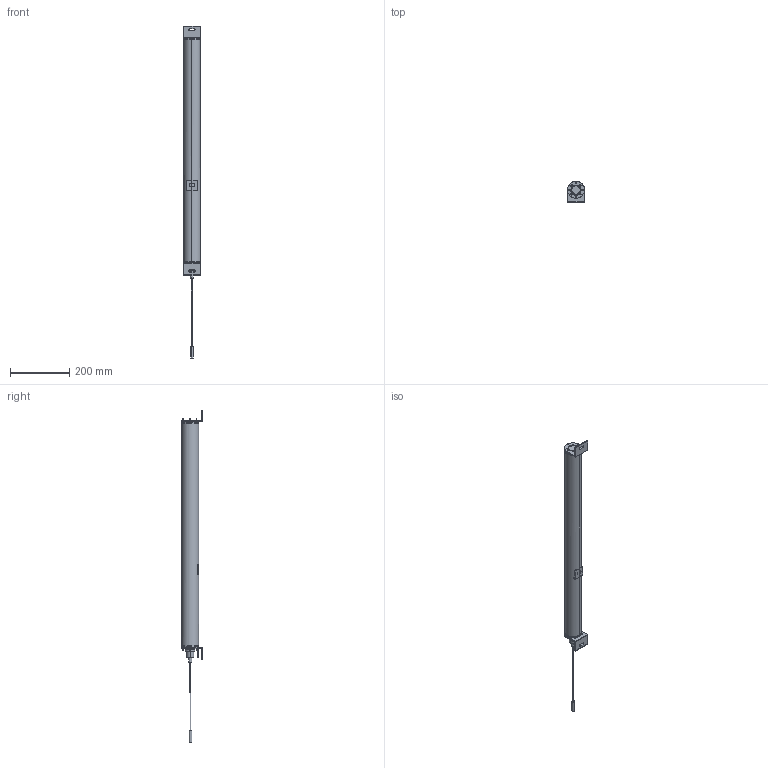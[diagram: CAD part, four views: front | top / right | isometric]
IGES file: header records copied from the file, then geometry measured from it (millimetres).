
Global section: file name: C:\ACADFILES\SS_PYLONS\CUSTOMER_FILES\SS-28-PYLON_3D_SMB_PT.igs; native system: AutoCAD-18.2s (LMS Tech) (Microsoft Windows NT Version 6.1 (x86)); preprocessor: Autodesk IGES Translator Mechanical Desktop 2011 (Feb 18 2011) from Autodesk, Inc.; date: 20140326.150807; units: inch
Bounding box: 57.29 x 69.85 x 1117.97 mm (x, y, z)
Surface area: 626347.3 mm2 (no closed solid volume)
Topology: 0 solids, 0 shells, 1800 faces, 9329 edges, 9504 vertices
Faces by surface type: bspline 1800
